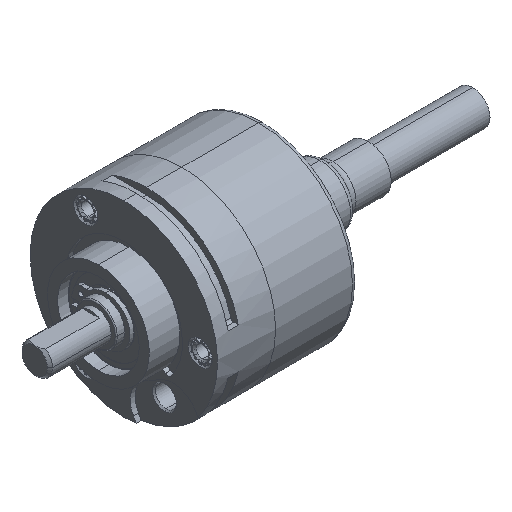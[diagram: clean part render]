
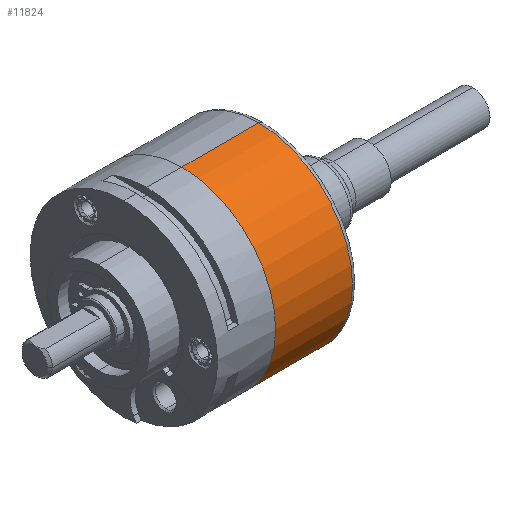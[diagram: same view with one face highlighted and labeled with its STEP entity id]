
A CAD part, isometric view. The second image highlights one B-rep face of the part: STEP entity #11824.
In plain terms, the highlighted cylindrical face has radius 18.4 mm (diameter 36.8 mm), a partial arc.
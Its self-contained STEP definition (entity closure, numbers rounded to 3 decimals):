
#10418 = EDGE_CURVE ( 'NONE', #11760, #10427, #36925, .T. ) ;
#10427 = VERTEX_POINT ( 'NONE', #37012 ) ;
#10437 = VERTEX_POINT ( 'NONE', #37088 ) ;
#10632 = EDGE_CURVE ( 'NONE', #11776, #10437, #50081, .T. ) ;
#11742 = ORIENTED_EDGE ( 'NONE', *, *, #10418, .T. ) ;
#11745 = EDGE_LOOP ( 'NONE', ( #11746, #11747, #11742, #11814 ) ) ;
#11746 = ORIENTED_EDGE ( 'NONE', *, *, #10632, .F. ) ;
#11747 = ORIENTED_EDGE ( 'NONE', *, *, #11748, .T. ) ;
#11748 = EDGE_CURVE ( 'NONE', #11776, #11760, #52042, .T. ) ;
#11760 = VERTEX_POINT ( 'NONE', #52036 ) ;
#11776 = VERTEX_POINT ( 'NONE', #52081 ) ;
#11814 = ORIENTED_EDGE ( 'NONE', *, *, #11853, .F. ) ;
#11824 = ADVANCED_FACE ( 'NONE', ( #52828 ), #52808, .T. ) ;
#11853 = EDGE_CURVE ( 'NONE', #10437, #10427, #52785, .T. ) ;
#36923 = VECTOR ( 'NONE', #37034, 1000. ) ;
#36924 = CARTESIAN_POINT ( 'NONE',  ( -35.18, 4.304, 11.589 ) ) ;
#36925 = LINE ( 'NONE', #36924, #36923 ) ;
#37012 = CARTESIAN_POINT ( 'NONE',  ( -35.78, 4.304, 11.589 ) ) ;
#37034 = DIRECTION ( 'NONE',  ( -1., 0., 0. ) ) ;
#37088 = CARTESIAN_POINT ( 'NONE',  ( -35.78, 4.304, -25.211 ) ) ;
#50026 = DIRECTION ( 'NONE',  ( -1., 0., 0. ) ) ;
#50081 = LINE ( 'NONE', #50096, #50095 ) ;
#50095 = VECTOR ( 'NONE', #50026, 1000. ) ;
#50096 = CARTESIAN_POINT ( 'NONE',  ( -35.18, 4.304, -25.211 ) ) ;
#51894 = DIRECTION ( 'NONE',  ( 0., 0., 1. ) ) ;
#51895 = DIRECTION ( 'NONE',  ( -1., 0., 0. ) ) ;
#51897 = CARTESIAN_POINT ( 'NONE',  ( -20.68, 4.304, -6.811 ) ) ;
#51898 = AXIS2_PLACEMENT_3D ( 'NONE', #51897, #51895, #51894 ) ;
#52036 = CARTESIAN_POINT ( 'NONE',  ( -20.68, 4.304, 11.589 ) ) ;
#52042 = CIRCLE ( 'NONE', #51898, 18.4 ) ;
#52081 = CARTESIAN_POINT ( 'NONE',  ( -20.68, 4.304, -25.211 ) ) ;
#52785 = CIRCLE ( 'NONE', #52887, 18.4 ) ;
#52806 = DIRECTION ( 'NONE',  ( -1., 0., 0. ) ) ;
#52807 = AXIS2_PLACEMENT_3D ( 'NONE', #52810, #52806, #52862 ) ;
#52808 = CYLINDRICAL_SURFACE ( 'NONE', #52807, 18.4 ) ;
#52810 = CARTESIAN_POINT ( 'NONE',  ( -35.18, 4.304, -6.811 ) ) ;
#52828 = FACE_OUTER_BOUND ( 'NONE', #11745, .T. ) ;
#52862 = DIRECTION ( 'NONE',  ( 0., 0., 1. ) ) ;
#52884 = DIRECTION ( 'NONE',  ( 0., 0., 1. ) ) ;
#52885 = DIRECTION ( 'NONE',  ( -1., 0., 0. ) ) ;
#52886 = CARTESIAN_POINT ( 'NONE',  ( -35.78, 4.304, -6.811 ) ) ;
#52887 = AXIS2_PLACEMENT_3D ( 'NONE', #52886, #52885, #52884 ) ;
